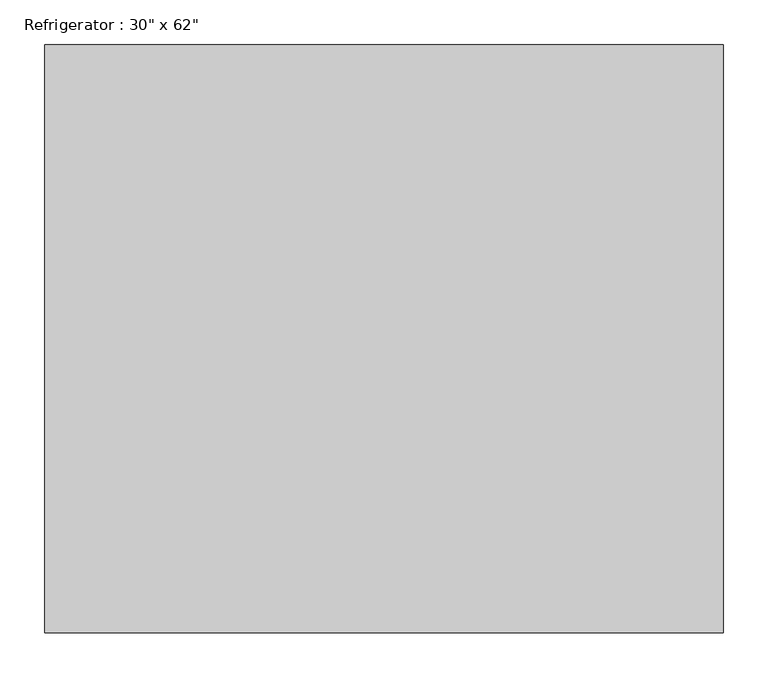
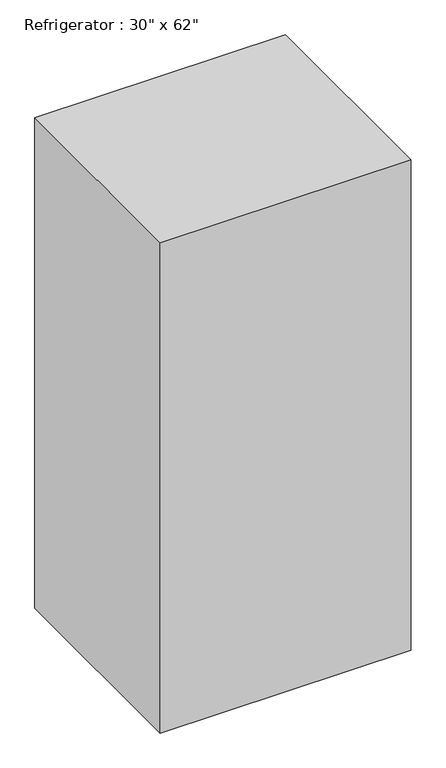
"""IFC4 building model written with IfcOpenShell, lengths in millimetres: proxy geometry."""

from ifc_helpers import new_model, si_unit, origin, origin_with_axes, place, context, project, spatial, polyline, outline, extrude, source, transform, mapped, element, save


def proxy_442c6cfd(model_context):
    return source(origin(), model_context, "Body", "SweptSolid", [
        extrude(outline(polyline([(762.0, 0.0), (0.0, 0.0), (0.0, 660.4), (762.0, 660.4), (762.0, 0.0)])), origin_with_axes(), (0.0, 0.0, 1.0), 1574.8),
    ])


if __name__ == "__main__":
    model = new_model("IFC4")
    model_context = context("Model", 3, world=origin())
    ifc_project = project(units=[si_unit("LENGTHUNIT", "METRE", prefix="MILLI")], contexts=[model_context])
    site = spatial("IfcSite", under=ifc_project)
    building = spatial("IfcBuilding", under=site)
    placement = place(None, origin())
    proxy_shape = proxy_442c6cfd(model_context)
    element("IfcBuildingElementProxy", 1, Name="Refrigerator : 30\" x 62\"", ObjectType="Refrigerator : 30\" x 62\"", at=placement, inside=building, context=model_context, shape_type="MappedRepresentation", body=[
        mapped(proxy_shape, transform((0.0, 0.0, 0.0), x_axis=(1.0, 0.0, 0.0), y_axis=(0.0, 1.0, 0.0), z_axis=(0.0, 0.0, 1.0))),
    ])
    save(model, "model.ifc")
